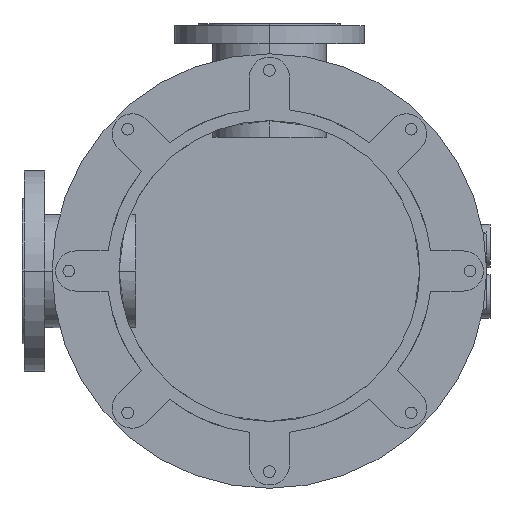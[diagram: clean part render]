
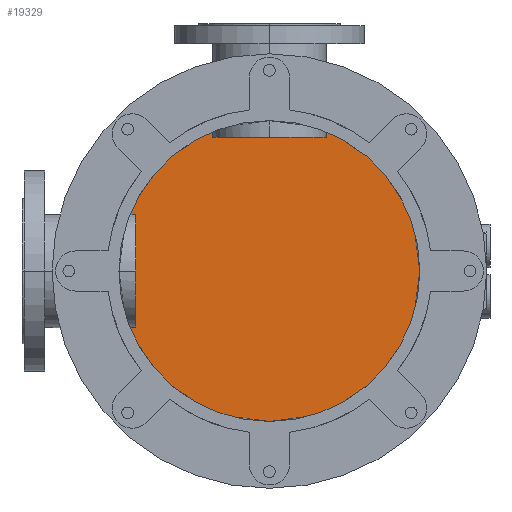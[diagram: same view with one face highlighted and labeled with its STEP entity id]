
A CAD part, front view. The second image highlights one B-rep face of the part: STEP entity #19329.
In plain terms, the highlighted planar face has unit normal (0, -1, 0).
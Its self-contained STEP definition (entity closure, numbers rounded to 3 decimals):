
#2773=CARTESIAN_POINT('',(0.,1172.,0.));
#2774=DIRECTION('',(0.,-1.,0.));
#2775=DIRECTION('',(0.,0.,1.));
#2776=AXIS2_PLACEMENT_3D('',#2773,#2774,#2775);
#3024=CARTESIAN_POINT('',(0.,1172.,0.));
#3025=DIRECTION('',(0.,-1.,0.));
#3026=DIRECTION('',(0.,0.,-1.));
#3027=AXIS2_PLACEMENT_3D('',#3024,#3025,#3026);
#9173=CARTESIAN_POINT('',(0.,1172.,240.));
#9174=CARTESIAN_POINT('',(0.,1172.,-240.));
#9175=VERTEX_POINT('',#9173);
#9176=VERTEX_POINT('',#9174);
#19320=CARTESIAN_POINT('',(0.,1172.,0.));
#19321=DIRECTION('',(0.,1.,0.));
#19322=DIRECTION('',(0.,0.,-1.));
#19323=AXIS2_PLACEMENT_3D('',#19320,#19321,#19322);
#19324=PLANE('',#19323);
#19325=ORIENTED_EDGE('',*,*,#14446,.F.);
#19326=ORIENTED_EDGE('',*,*,#14620,.F.);
#19327=EDGE_LOOP('',(#19325,#19326));
#19328=FACE_OUTER_BOUND('',#19327,.F.);
#19329=ADVANCED_FACE('',(#19328),#19324,.F.);
#2777=CIRCLE('',#2776,240.);
#3028=CIRCLE('',#3027,240.);
#14446=EDGE_CURVE('',#9175,#9176,#2777,.T.);
#14620=EDGE_CURVE('',#9176,#9175,#3028,.T.);
